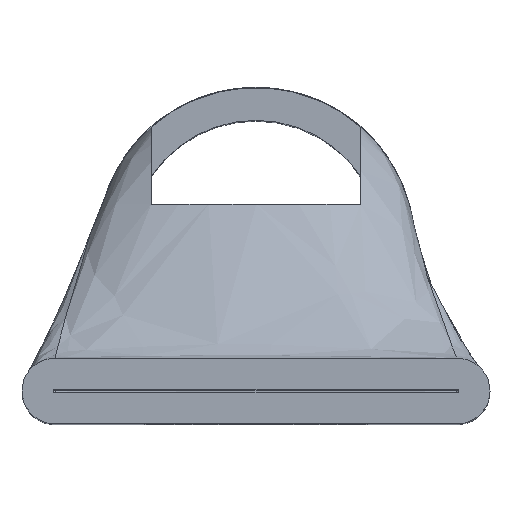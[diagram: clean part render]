
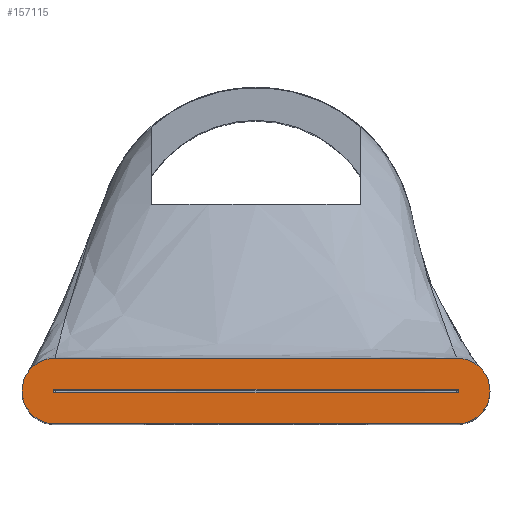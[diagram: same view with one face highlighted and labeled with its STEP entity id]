
A CAD part, top view. The second image highlights one B-rep face of the part: STEP entity #157115.
In plain terms, the highlighted planar face has unit normal (0, 0, 1).
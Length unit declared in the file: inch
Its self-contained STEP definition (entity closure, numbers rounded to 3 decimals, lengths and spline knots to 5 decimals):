
#152835=CARTESIAN_POINT('',(-0.475,-0.267,2.674));
#152836=VERTEX_POINT('',#152835);
#152843=CARTESIAN_POINT('',(0.475,-0.267,2.674));
#152844=VERTEX_POINT('',#152843);
#152845=CARTESIAN_POINT('',(-0.475,-0.267,2.674));
#152846=DIRECTION('',(1.0,0.0,0.0));
#152847=VECTOR('',#152846,0.95);
#152848=LINE('',#152845,#152847);
#152849=EDGE_CURVE('',#152836,#152844,#152848,.T.);
#156381=CARTESIAN_POINT('',(-0.475,-0.34838,2.674));
#156382=VERTEX_POINT('',#156381);
#156389=CARTESIAN_POINT('',(0.475,-0.34838,2.674));
#156390=VERTEX_POINT('',#156389);
#156391=CARTESIAN_POINT('',(0.475,-0.34838,2.674));
#156392=DIRECTION('',(-1.0,0.0,0.0));
#156393=VECTOR('',#156392,0.95);
#156394=LINE('',#156391,#156393);
#156395=EDGE_CURVE('',#156390,#156382,#156394,.T.);
#156416=CARTESIAN_POINT('',(0.475,-0.34063,2.674));
#156417=VERTEX_POINT('',#156416);
#156418=CARTESIAN_POINT('',(0.475,-0.3445,2.674));
#156419=DIRECTION('',(0.0,0.0,-1.0));
#156420=DIRECTION('',(0.0,-1.0,0.0));
#156421=AXIS2_PLACEMENT_3D('',#156418,#156419,#156420);
#156422=CIRCLE('',#156421,0.00388);
#156423=EDGE_CURVE('',#156417,#156390,#156422,.T.);
#156442=CARTESIAN_POINT('',(-0.475,-0.34063,2.674));
#156443=VERTEX_POINT('',#156442);
#156444=CARTESIAN_POINT('',(-0.475,-0.34063,2.674));
#156445=DIRECTION('',(1.0,0.0,0.0));
#156446=VECTOR('',#156445,0.95);
#156447=LINE('',#156444,#156446);
#156448=EDGE_CURVE('',#156443,#156417,#156447,.T.);
#156469=CARTESIAN_POINT('',(-0.475,-0.3445,2.674));
#156470=DIRECTION('',(0.0,0.0,-1.0));
#156471=DIRECTION('',(0.0,1.0,0.0));
#156472=AXIS2_PLACEMENT_3D('',#156469,#156470,#156471);
#156473=CIRCLE('',#156472,0.00388);
#156474=EDGE_CURVE('',#156382,#156443,#156473,.T.);
#157022=CARTESIAN_POINT('',(-0.475,-0.422,2.674));
#157023=VERTEX_POINT('',#157022);
#157030=CARTESIAN_POINT('',(-0.475,-0.3445,2.674));
#157031=DIRECTION('',(0.0,0.0,-1.0));
#157032=DIRECTION('',(0.0,-1.0,0.0));
#157033=AXIS2_PLACEMENT_3D('',#157030,#157031,#157032);
#157034=CIRCLE('',#157033,0.0775);
#157035=EDGE_CURVE('',#157023,#152836,#157034,.T.);
#157047=CARTESIAN_POINT('',(0.475,-0.422,2.674));
#157048=VERTEX_POINT('',#157047);
#157055=CARTESIAN_POINT('',(0.475,-0.422,2.674));
#157056=DIRECTION('',(-1.0,0.0,0.0));
#157057=VECTOR('',#157056,0.95);
#157058=LINE('',#157055,#157057);
#157059=EDGE_CURVE('',#157048,#157023,#157058,.T.);
#157076=CARTESIAN_POINT('',(0.475,-0.3445,2.674));
#157077=DIRECTION('',(0.0,0.0,-1.0));
#157078=DIRECTION('',(0.0,1.0,0.0));
#157079=AXIS2_PLACEMENT_3D('',#157076,#157077,#157078);
#157080=CIRCLE('',#157079,0.0775);
#157081=EDGE_CURVE('',#152844,#157048,#157080,.T.);
#157098=CARTESIAN_POINT('',(0.0,-0.3445,2.674));
#157099=DIRECTION('',(0.0,0.0,1.0));
#157100=DIRECTION('',(1.0,0.0,0.0));
#157101=AXIS2_PLACEMENT_3D('',#157098,#157099,#157100);
#157102=PLANE('',#157101);
#157103=ORIENTED_EDGE('',*,*,#152849,.F.);
#157104=ORIENTED_EDGE('',*,*,#157035,.F.);
#157105=ORIENTED_EDGE('',*,*,#157059,.F.);
#157106=ORIENTED_EDGE('',*,*,#157081,.F.);
#157107=EDGE_LOOP('',(#157103,#157104,#157105,#157106));
#157108=FACE_OUTER_BOUND('',#157107,.T.);
#157109=ORIENTED_EDGE('',*,*,#156395,.T.);
#157110=ORIENTED_EDGE('',*,*,#156474,.T.);
#157111=ORIENTED_EDGE('',*,*,#156448,.T.);
#157112=ORIENTED_EDGE('',*,*,#156423,.T.);
#157113=EDGE_LOOP('',(#157109,#157110,#157111,#157112));
#157114=FACE_BOUND('',#157113,.T.);
#157115=ADVANCED_FACE('',(#157108,#157114),#157102,.T.);
